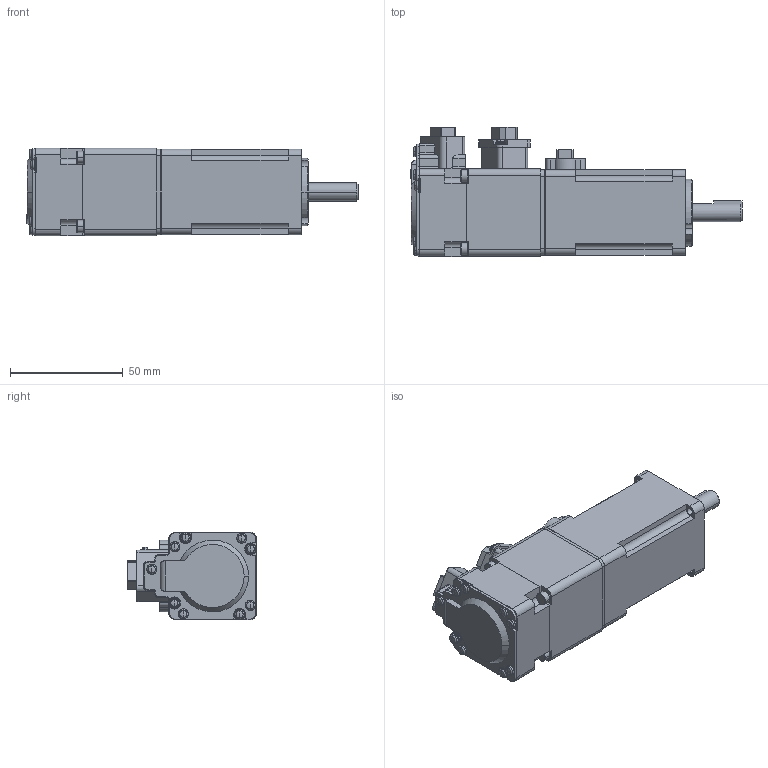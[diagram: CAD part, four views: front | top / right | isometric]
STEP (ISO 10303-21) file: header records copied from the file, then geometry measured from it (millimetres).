
FILE_DESCRIPTION( ( '' ), '1' );
FILE_NAME( '//expscmdclustefs.cadenas.external/client_exchange/iodir/jobs/output/wkb64581905_no0/STEP/MSME012G1V_1__2_14b.stp', '2013-10-23T12:32:49', ( '' ), ( '' ), ' ', ' ', ' ' );
FILE_SCHEMA( ( 'automotive_design' ) );
Length unit declared in the file: millimetre
Products named in the file (1): 1
Bounding box: 147.5 x 57.3 x 39 mm (x, y, z)
Volume: 186178.3 mm3; surface area: 29437.4 mm2
Topology: 1 solids, 1 shells, 737 faces, 1948 edges, 1263 vertices
Faces by surface type: plane 390, cylinder 249, cone 50, torus 48
Entity records: 44692 total; most frequent: CARTESIAN_POINT 4083, DIRECTION 4057, STYLED_ITEM 3921, PRESENTATION_STYLE_ASSIGNMENT 3921, COLOUR_RGB 3921, ORIENTED_EDGE 3840, EDGE_CURVE 1920, CURVE_STYLE 1920
